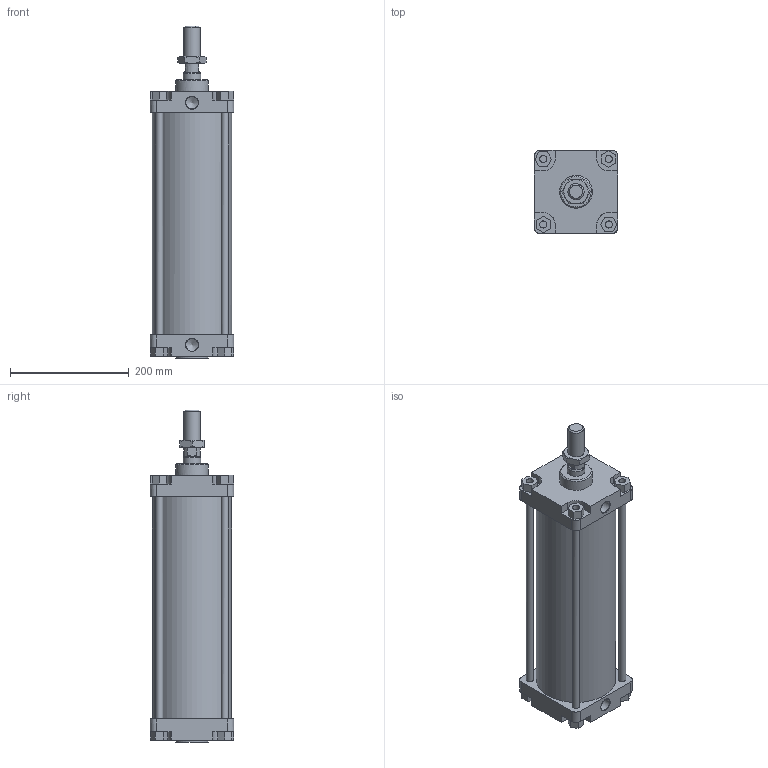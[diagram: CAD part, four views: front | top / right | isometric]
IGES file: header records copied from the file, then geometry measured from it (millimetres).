
Global section: file name: 1303_125_0300_01A; native system: Autodesk Inventor 2014; preprocessor: unknown; author: A. Manieri; date: 20161124.141539; units: millimetre
Bounding box: 140 x 140 x 558 mm (x, y, z)
Volume: 3288187.8 mm3; surface area: 607175.5 mm2
Topology: 9 solids, 9 shells, 175 faces, 440 edges, 295 vertices
Faces by surface type: bspline 175
